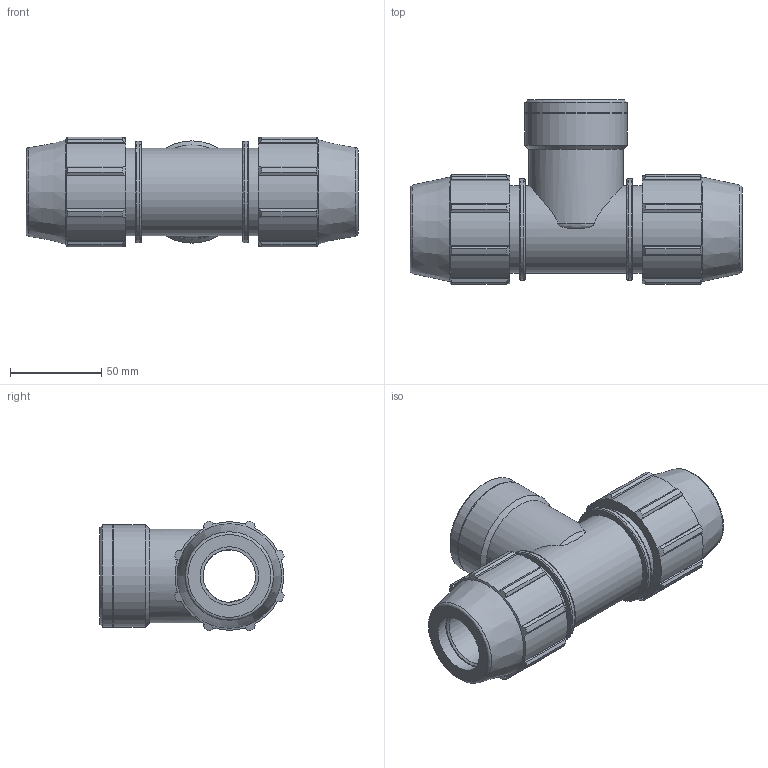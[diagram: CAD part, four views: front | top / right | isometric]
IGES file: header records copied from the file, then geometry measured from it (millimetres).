
Global section: file name: 071400032015_181400032015_0714060320150A.ipt; native system: Autodesk Inventor 2015; preprocessor: unknown; author: KIM; date: 20170606.172152; units: millimetre
Bounding box: 182 x 101.11 x 60.22 mm (x, y, z)
Volume: 333425.3 mm3; surface area: 72420 mm2
Topology: 1 solids, 1 shells, 159 faces, 448 edges, 302 vertices
Faces by surface type: plane 79, cylinder 40, cone 23, revolution 17
Full cylindrical faces by diameter (mm): 48 x3, 51.572 x1, 55.68 x2, 56.056 x2
